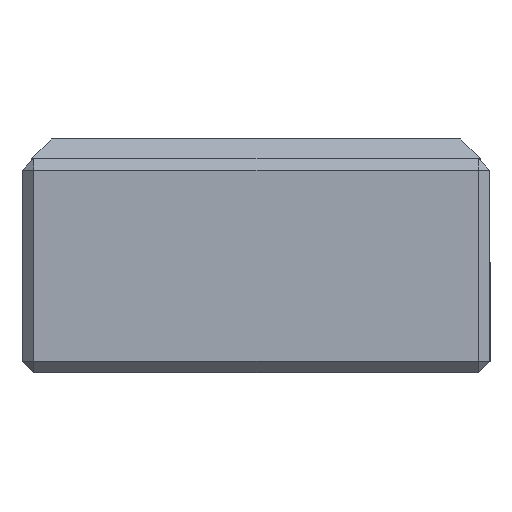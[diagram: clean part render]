
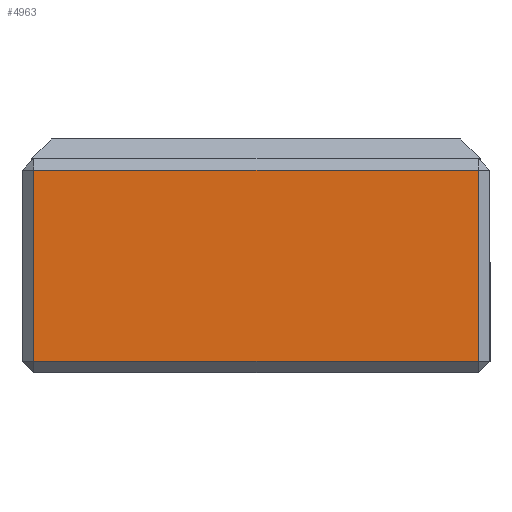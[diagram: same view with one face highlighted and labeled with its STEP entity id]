
A CAD part, left-side view. The second image highlights one B-rep face of the part: STEP entity #4963.
In plain terms, the highlighted planar face has unit normal (-1, 0, 0).
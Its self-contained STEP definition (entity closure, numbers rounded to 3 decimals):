
#2410 = PLANE('',#2411);
#2411 = AXIS2_PLACEMENT_3D('',#2412,#2413,#2414);
#2412 = CARTESIAN_POINT('',(-0.985,0.015,0.));
#2413 = DIRECTION('',(0.707,0.707,0.)
  );
#2414 = DIRECTION('',(0.,0.,1.));
#2780 = PLANE('',#2781);
#2781 = AXIS2_PLACEMENT_3D('',#2782,#2783,#2784);
#2782 = CARTESIAN_POINT('',(-0.985,1.185,0.));
#2783 = DIRECTION('',(-0.707,0.707,0.
    ));
#2784 = DIRECTION('',(0.,0.,1.));
#2918 = PLANE('',#2919);
#2919 = AXIS2_PLACEMENT_3D('',#2920,#2921,#2922);
#2920 = CARTESIAN_POINT('',(-0.985,0.,0.535));
#2921 = DIRECTION('',(-0.707,0.,0.707));
#2922 = DIRECTION('',(-0.,-1.,-0.));
#3982 = VERTEX_POINT('',#3983);
#3983 = CARTESIAN_POINT('',(-1.,0.03,0.03));
#4009 = EDGE_CURVE('',#3982,#4010,#4012,.T.);
#4010 = VERTEX_POINT('',#4011);
#4011 = CARTESIAN_POINT('',(-1.,0.03,0.52));
#4012 = SURFACE_CURVE('',#4013,(#4017,#4024),.PCURVE_S1.);
#4013 = LINE('',#4014,#4015);
#4014 = CARTESIAN_POINT('',(-1.,0.03,0.));
#4015 = VECTOR('',#4016,1.);
#4016 = DIRECTION('',(0.,0.,1.));
#4017 = PCURVE('',#2410,#4018);
#4018 = DEFINITIONAL_REPRESENTATION('',(#4019),#4023);
#4019 = LINE('',#4020,#4021);
#4020 = CARTESIAN_POINT('',(0.,-0.021));
#4021 = VECTOR('',#4022,1.);
#4022 = DIRECTION('',(1.,0.));
#4023 = ( GEOMETRIC_REPRESENTATION_CONTEXT(2) 
PARAMETRIC_REPRESENTATION_CONTEXT() REPRESENTATION_CONTEXT('2D SPACE',''
  ) );
#4024 = PCURVE('',#4025,#4030);
#4025 = PLANE('',#4026);
#4026 = AXIS2_PLACEMENT_3D('',#4027,#4028,#4029);
#4027 = CARTESIAN_POINT('',(-1.,0.,0.));
#4028 = DIRECTION('',(1.,0.,0.));
#4029 = DIRECTION('',(0.,0.,1.));
#4030 = DEFINITIONAL_REPRESENTATION('',(#4031),#4035);
#4031 = LINE('',#4032,#4033);
#4032 = CARTESIAN_POINT('',(0.,-0.03));
#4033 = VECTOR('',#4034,1.);
#4034 = DIRECTION('',(1.,0.));
#4035 = ( GEOMETRIC_REPRESENTATION_CONTEXT(2) 
PARAMETRIC_REPRESENTATION_CONTEXT() REPRESENTATION_CONTEXT('2D SPACE',''
  ) );
#4331 = VERTEX_POINT('',#4332);
#4332 = CARTESIAN_POINT('',(-1.,1.17,0.03));
#4358 = EDGE_CURVE('',#4331,#4359,#4361,.T.);
#4359 = VERTEX_POINT('',#4360);
#4360 = CARTESIAN_POINT('',(-1.,1.17,0.52));
#4361 = SURFACE_CURVE('',#4362,(#4366,#4373),.PCURVE_S1.);
#4362 = LINE('',#4363,#4364);
#4363 = CARTESIAN_POINT('',(-1.,1.17,0.));
#4364 = VECTOR('',#4365,1.);
#4365 = DIRECTION('',(0.,0.,1.));
#4366 = PCURVE('',#2780,#4367);
#4367 = DEFINITIONAL_REPRESENTATION('',(#4368),#4372);
#4368 = LINE('',#4369,#4370);
#4369 = CARTESIAN_POINT('',(0.,-0.021));
#4370 = VECTOR('',#4371,1.);
#4371 = DIRECTION('',(1.,0.));
#4372 = ( GEOMETRIC_REPRESENTATION_CONTEXT(2) 
PARAMETRIC_REPRESENTATION_CONTEXT() REPRESENTATION_CONTEXT('2D SPACE',''
  ) );
#4373 = PCURVE('',#4025,#4374);
#4374 = DEFINITIONAL_REPRESENTATION('',(#4375),#4379);
#4375 = LINE('',#4376,#4377);
#4376 = CARTESIAN_POINT('',(0.,-1.17));
#4377 = VECTOR('',#4378,1.);
#4378 = DIRECTION('',(1.,0.));
#4379 = ( GEOMETRIC_REPRESENTATION_CONTEXT(2) 
PARAMETRIC_REPRESENTATION_CONTEXT() REPRESENTATION_CONTEXT('2D SPACE',''
  ) );
#4531 = EDGE_CURVE('',#4010,#4359,#4532,.T.);
#4532 = SURFACE_CURVE('',#4533,(#4537,#4544),.PCURVE_S1.);
#4533 = LINE('',#4534,#4535);
#4534 = CARTESIAN_POINT('',(-1.,0.,0.52));
#4535 = VECTOR('',#4536,1.);
#4536 = DIRECTION('',(0.,1.,0.));
#4537 = PCURVE('',#2918,#4538);
#4538 = DEFINITIONAL_REPRESENTATION('',(#4539),#4543);
#4539 = LINE('',#4540,#4541);
#4540 = CARTESIAN_POINT('',(-0.,-0.021));
#4541 = VECTOR('',#4542,1.);
#4542 = DIRECTION('',(-1.,0.));
#4543 = ( GEOMETRIC_REPRESENTATION_CONTEXT(2) 
PARAMETRIC_REPRESENTATION_CONTEXT() REPRESENTATION_CONTEXT('2D SPACE',''
  ) );
#4544 = PCURVE('',#4025,#4545);
#4545 = DEFINITIONAL_REPRESENTATION('',(#4546),#4550);
#4546 = LINE('',#4547,#4548);
#4547 = CARTESIAN_POINT('',(0.52,0.));
#4548 = VECTOR('',#4549,1.);
#4549 = DIRECTION('',(0.,-1.));
#4550 = ( GEOMETRIC_REPRESENTATION_CONTEXT(2) 
PARAMETRIC_REPRESENTATION_CONTEXT() REPRESENTATION_CONTEXT('2D SPACE',''
  ) );
#4952 = PLANE('',#4953);
#4953 = AXIS2_PLACEMENT_3D('',#4954,#4955,#4956);
#4954 = CARTESIAN_POINT('',(-0.985,0.,0.015));
#4955 = DIRECTION('',(-0.707,0.,-0.707));
#4956 = DIRECTION('',(-0.,-1.,-0.));
#4963 = ADVANCED_FACE('',(#4964),#4025,.F.);
#4964 = FACE_BOUND('',#4965,.F.);
#4965 = EDGE_LOOP('',(#4966,#4987,#4988,#4989));
#4966 = ORIENTED_EDGE('',*,*,#4967,.T.);
#4967 = EDGE_CURVE('',#3982,#4331,#4968,.T.);
#4968 = SURFACE_CURVE('',#4969,(#4973,#4980),.PCURVE_S1.);
#4969 = LINE('',#4970,#4971);
#4970 = CARTESIAN_POINT('',(-1.,0.,0.03));
#4971 = VECTOR('',#4972,1.);
#4972 = DIRECTION('',(0.,1.,0.));
#4973 = PCURVE('',#4025,#4974);
#4974 = DEFINITIONAL_REPRESENTATION('',(#4975),#4979);
#4975 = LINE('',#4976,#4977);
#4976 = CARTESIAN_POINT('',(0.03,0.));
#4977 = VECTOR('',#4978,1.);
#4978 = DIRECTION('',(0.,-1.));
#4979 = ( GEOMETRIC_REPRESENTATION_CONTEXT(2) 
PARAMETRIC_REPRESENTATION_CONTEXT() REPRESENTATION_CONTEXT('2D SPACE',''
  ) );
#4980 = PCURVE('',#4952,#4981);
#4981 = DEFINITIONAL_REPRESENTATION('',(#4982),#4986);
#4982 = LINE('',#4983,#4984);
#4983 = CARTESIAN_POINT('',(-0.,0.021));
#4984 = VECTOR('',#4985,1.);
#4985 = DIRECTION('',(-1.,0.));
#4986 = ( GEOMETRIC_REPRESENTATION_CONTEXT(2) 
PARAMETRIC_REPRESENTATION_CONTEXT() REPRESENTATION_CONTEXT('2D SPACE',''
  ) );
#4987 = ORIENTED_EDGE('',*,*,#4358,.T.);
#4988 = ORIENTED_EDGE('',*,*,#4531,.F.);
#4989 = ORIENTED_EDGE('',*,*,#4009,.F.);
